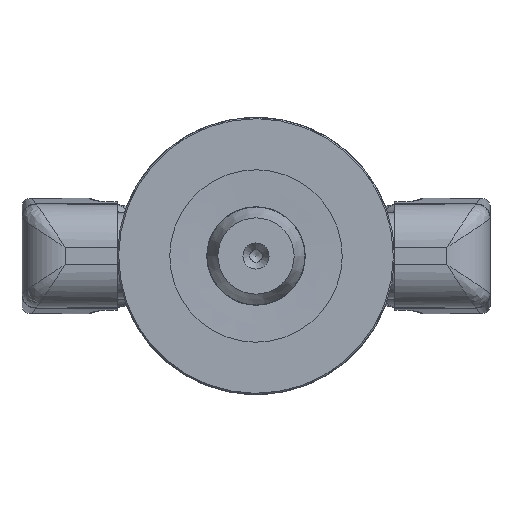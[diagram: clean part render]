
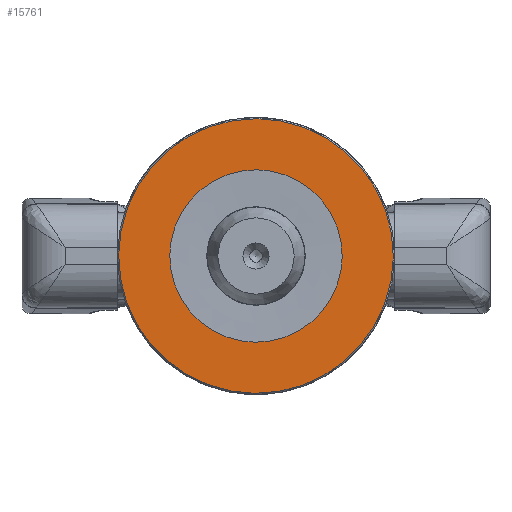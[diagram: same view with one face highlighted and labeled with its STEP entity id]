
A CAD part, front view. The second image highlights one B-rep face of the part: STEP entity #15761.
In plain terms, the highlighted planar face has unit normal (0, -1, 0) as drawn and (0, 0, -1) by its records, which use the part's own axes.
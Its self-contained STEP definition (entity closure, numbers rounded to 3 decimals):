
#294=FACE_BOUND('',#4509,.T.);
#668=CIRCLE('',#16891,22.3);
#670=CIRCLE('',#16895,14.);
#2794=PLANE('',#16894);
#3524=FACE_OUTER_BOUND('',#4508,.T.);
#4508=EDGE_LOOP('',(#12691));
#4509=EDGE_LOOP('',(#12692));
#6844=VERTEX_POINT('',#43637);
#6846=VERTEX_POINT('',#43643);
#8913=EDGE_CURVE('',#6844,#6844,#668,.T.);
#8915=EDGE_CURVE('',#6846,#6846,#670,.T.);
#12691=ORIENTED_EDGE('',*,*,#8913,.F.);
#12692=ORIENTED_EDGE('',*,*,#8915,.F.);
#15761=ADVANCED_FACE('',(#3524,#294),#2794,.F.);
#16891=AXIS2_PLACEMENT_3D('',#43638,#19075,#19076);
#16894=AXIS2_PLACEMENT_3D('',#43642,#19081,#19082);
#16895=AXIS2_PLACEMENT_3D('',#43644,#19083,#19084);
#19075=DIRECTION('center_axis',(0.,0.,1.));
#19076=DIRECTION('ref_axis',(-1.,0.,0.));
#19081=DIRECTION('center_axis',(0.,0.,1.));
#19082=DIRECTION('ref_axis',(1.,0.,0.));
#19083=DIRECTION('center_axis',(0.,0.,-1.));
#19084=DIRECTION('ref_axis',(-1.,0.,0.));
#43637=CARTESIAN_POINT('',(22.3,0.,0.));
#43638=CARTESIAN_POINT('Origin',(0.,0.,0.));
#43642=CARTESIAN_POINT('Origin',(0.,0.,0.));
#43643=CARTESIAN_POINT('',(14.,0.,0.));
#43644=CARTESIAN_POINT('Origin',(0.,0.,0.));
